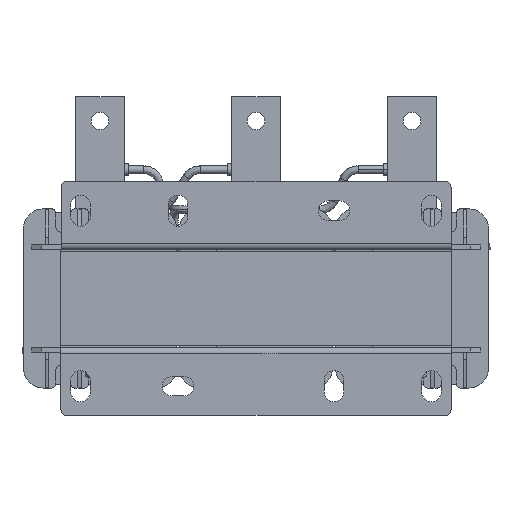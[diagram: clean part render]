
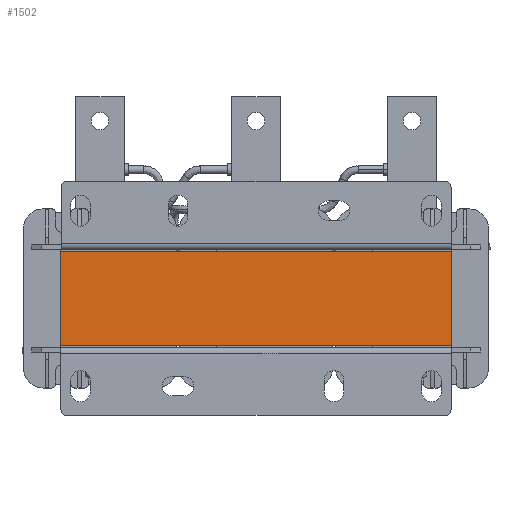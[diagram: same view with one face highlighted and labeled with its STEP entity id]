
A CAD part, front view. The second image highlights one B-rep face of the part: STEP entity #1502.
In plain terms, the highlighted planar face has unit normal (0, -1, 0).
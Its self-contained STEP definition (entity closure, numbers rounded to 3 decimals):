
#371 = VERTEX_POINT ( 'NONE', #12718 ) ;
#1502 = ADVANCED_FACE ( 'NONE', ( #5407 ), #29211, .F. ) ;
#1741 = EDGE_LOOP ( 'NONE', ( #48179, #39683, #19989, #30696 ) ) ;
#3039 = CARTESIAN_POINT ( 'NONE',  ( 100., -101., 0. ) ) ;
#4137 = VECTOR ( 'NONE', #19532, 1000. ) ;
#5287 = LINE ( 'NONE', #31660, #48652 ) ;
#5407 = FACE_OUTER_BOUND ( 'NONE', #1741, .T. ) ;
#7613 = CARTESIAN_POINT ( 'NONE',  ( 100., -101., 48. ) ) ;
#9392 = VECTOR ( 'NONE', #23187, 1000. ) ;
#11897 = CARTESIAN_POINT ( 'NONE',  ( -100., -101., 0. ) ) ;
#12236 = LINE ( 'NONE', #16582, #20008 ) ;
#12493 = EDGE_CURVE ( 'NONE', #371, #35501, #42664, .T. ) ;
#12661 = EDGE_CURVE ( 'NONE', #18665, #371, #5287, .T. ) ;
#12718 = CARTESIAN_POINT ( 'NONE',  ( 100., -101., 48. ) ) ;
#12816 = CARTESIAN_POINT ( 'NONE',  ( -100., -101., 0. ) ) ;
#16582 = CARTESIAN_POINT ( 'NONE',  ( -100., -101., 48. ) ) ;
#17175 = CARTESIAN_POINT ( 'NONE',  ( -100., -101., 48. ) ) ;
#18665 = VERTEX_POINT ( 'NONE', #36148 ) ;
#19119 = VERTEX_POINT ( 'NONE', #12816 ) ;
#19532 = DIRECTION ( 'NONE',  ( -1., 0., 0. ) ) ;
#19591 = EDGE_CURVE ( 'NONE', #19119, #18665, #12236, .T. ) ;
#19989 = ORIENTED_EDGE ( 'NONE', *, *, #19591, .F. ) ;
#20008 = VECTOR ( 'NONE', #39609, 1000. ) ;
#21008 = DIRECTION ( 'NONE',  ( 0., 0., 1. ) ) ;
#23187 = DIRECTION ( 'NONE',  ( 0., 0., -1. ) ) ;
#27807 = DIRECTION ( 'NONE',  ( 1., 0., 0. ) ) ;
#29211 = PLANE ( 'NONE',  #45494 ) ;
#30696 = ORIENTED_EDGE ( 'NONE', *, *, #37843, .F. ) ;
#31072 = LINE ( 'NONE', #11897, #4137 ) ;
#31660 = CARTESIAN_POINT ( 'NONE',  ( 0., -101., 48. ) ) ;
#35501 = VERTEX_POINT ( 'NONE', #3039 ) ;
#36148 = CARTESIAN_POINT ( 'NONE',  ( -100., -101., 48. ) ) ;
#37843 = EDGE_CURVE ( 'NONE', #35501, #19119, #31072, .T. ) ;
#39609 = DIRECTION ( 'NONE',  ( 0., 0., 1. ) ) ;
#39683 = ORIENTED_EDGE ( 'NONE', *, *, #12661, .F. ) ;
#42664 = LINE ( 'NONE', #7613, #9392 ) ;
#45494 = AXIS2_PLACEMENT_3D ( 'NONE', #17175, #48935, #21008 ) ;
#48179 = ORIENTED_EDGE ( 'NONE', *, *, #12493, .F. ) ;
#48652 = VECTOR ( 'NONE', #27807, 1000. ) ;
#48935 = DIRECTION ( 'NONE',  ( 0., 1., 0. ) ) ;
